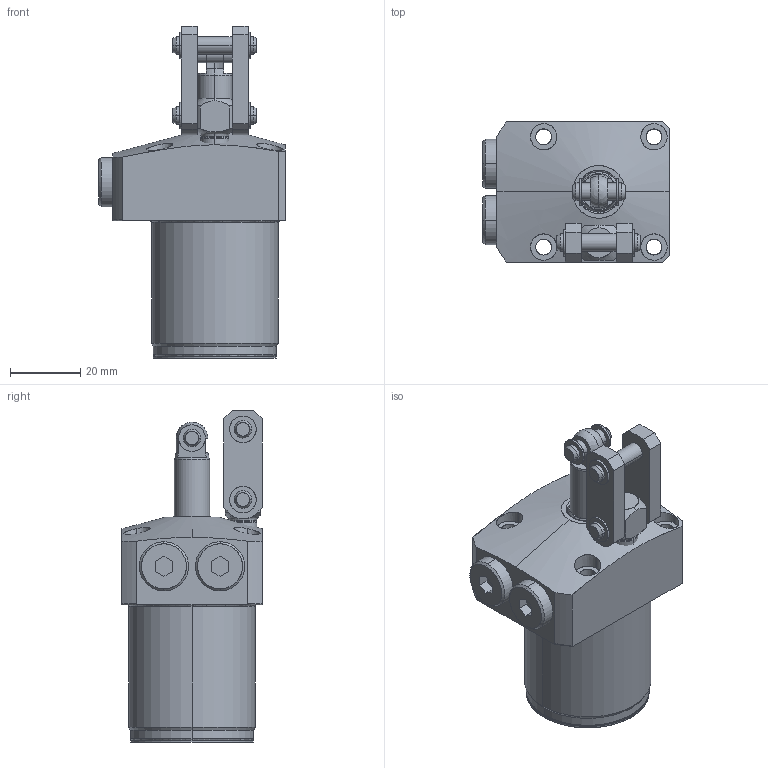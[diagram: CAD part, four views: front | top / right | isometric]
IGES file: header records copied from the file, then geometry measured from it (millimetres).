
Start section: SolidWorks IGES file using analytic representation for surfaces
Global section: file name: C:\Documents and Settings\nijil\My Documents\Clasys1\LQ Series\36\0401-0082.IGS; native system: SolidWorks 2010; preprocessor: SolidWorks 2010; author: nijil; date: 130723.115954; units: millimetre
Bounding box: 53 x 40 x 94.5 mm (x, y, z)
Surface area: 17810.3 mm2 (no closed solid volume)
Topology: 0 solids, 0 shells, 201 faces, 3520 edges, 3518 vertices
Faces by surface type: revolution 120, bspline 81
